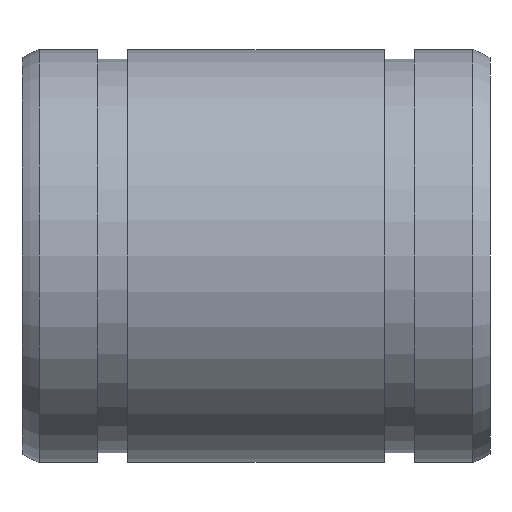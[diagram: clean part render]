
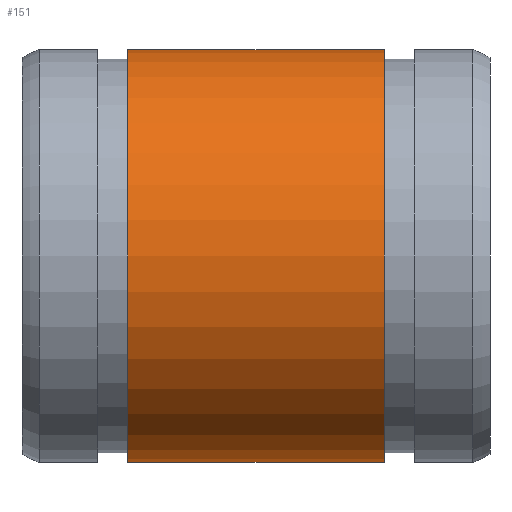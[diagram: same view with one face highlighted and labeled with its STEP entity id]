
A CAD part, front view. The second image highlights one B-rep face of the part: STEP entity #151.
In plain terms, the highlighted cylindrical face has radius 7.5 mm (diameter 15 mm), a full revolution.
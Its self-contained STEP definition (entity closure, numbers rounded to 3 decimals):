
#117=CARTESIAN_POINT('',(13.15,0.0,7.5));
#118=VERTEX_POINT('',#117);
#119=CARTESIAN_POINT('',(13.15,0.0,0.));
#120=DIRECTION('',(-1.0,0.0,0.0));
#121=DIRECTION('',(0.0,0.0,1.0));
#122=AXIS2_PLACEMENT_3D('',#119,#120,#121);
#123=CIRCLE('',#122,7.5);
#124=EDGE_CURVE('',#118,#118,#123,.T.);
#132=CARTESIAN_POINT('',(8.5,0.0,0.));
#133=DIRECTION('',(-1.0,0.0,0.0));
#134=DIRECTION('',(0.0,0.0,1.0));
#135=AXIS2_PLACEMENT_3D('',#132,#133,#134);
#136=CYLINDRICAL_SURFACE('',#135,7.5);
#137=CARTESIAN_POINT('',(3.85,0.0,7.5));
#138=VERTEX_POINT('',#137);
#139=CARTESIAN_POINT('',(3.85,0.0,0.));
#140=DIRECTION('',(-1.0,0.0,0.0));
#141=DIRECTION('',(0.0,0.0,1.0));
#142=AXIS2_PLACEMENT_3D('',#139,#140,#141);
#143=CIRCLE('',#142,7.5);
#144=EDGE_CURVE('',#138,#138,#143,.T.);
#145=ORIENTED_EDGE('',*,*,#144,.F.);
#146=EDGE_LOOP('',(#145));
#147=FACE_OUTER_BOUND('',#146,.T.);
#148=ORIENTED_EDGE('',*,*,#124,.T.);
#149=EDGE_LOOP('',(#148));
#150=FACE_BOUND('',#149,.T.);
#151=ADVANCED_FACE('',(#147,#150),#136,.T.);
